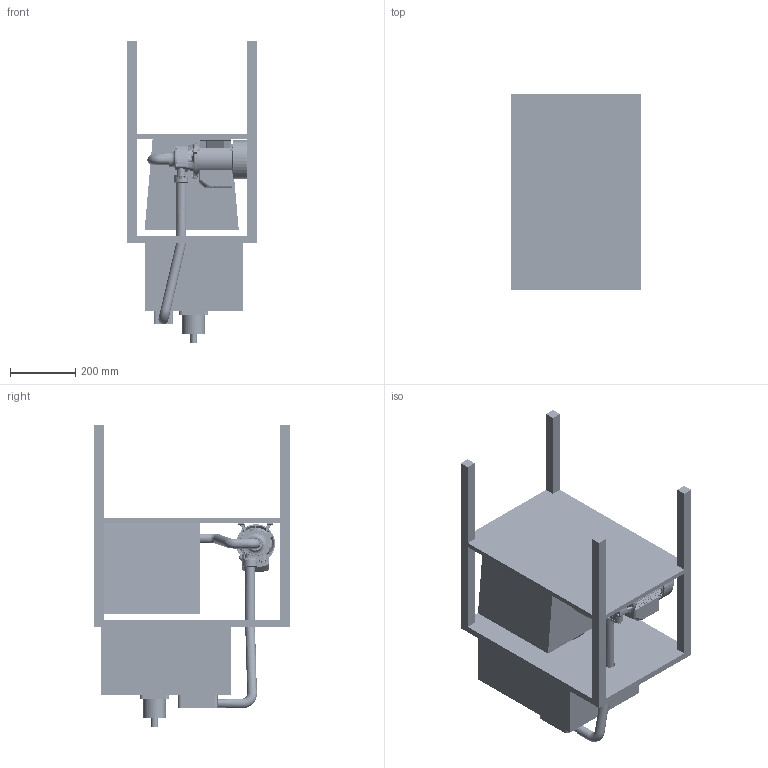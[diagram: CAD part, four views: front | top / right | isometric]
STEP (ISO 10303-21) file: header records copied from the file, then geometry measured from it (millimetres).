
FILE_DESCRIPTION(/* description */ (''),/* implementation_level */ '2;1');
FILE_NAME(/* name */ 'Assieme_banco_turbine_idrauliche.stp',/* time_stamp */ '2025-03-15T13:00:15+01:00',/* author */ ('R5800u'),/* organization */ (''),/* preprocessor_version */ 'ST-DEVELOPER v20',/* originating_system */ 'Autodesk Inventor 2025',/* authorisation */ '');
FILE_SCHEMA (('AUTOMOTIVE_DESIGN { 1 0 10303 214 3 1 1 }'));
Products named in the file (69): Assieme3; Assieme_turgo_frame; Assieme2; SOLID; tslot-20x20-3; tslot-20x20-2; tslot-20x20-3_MIR1; SNSD20x20; SNSD20x20_MIR; tslot-20x20-2_MIR1; tappo_superiore_distributore; lastra_top; lastra_laterale1; lastra_laterale2; Assieme_turgo; Parte2; disco; pala_turgo_small; disco_MIR1; AS 1474 - M3; albero-20mm; SKF51104; albero_2; %3% BS 290 - SKF 61804; blocco_albero; BS EN ISO 4762 - M4 x 35; tavolo; PERIPHERAL WATER PUMP; CASING WITH WOUND STATOR; TERMINAL COVER; BOLT(4); FAN COVER; FAIRLEAD; PUMP CASING; CHARGE PLUG; CAPACITOR; SHAFT; FAN; ROTOR; PUMP SUPPORT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
Assembly tree (177 placements, depth 4):
  Assieme3
    Assieme_turgo_frame
      Assieme2
        SOLID  x4
        tslot-20x20-3  x2
        tslot-20x20-2  x2
        tslot-20x20-3_MIR1  x2
        SNSD20x20  x8
        SNSD20x20_MIR  x8
        tslot-20x20-2_MIR1  x2
      tappo_superiore_distributore
      lastra_top
      lastra_laterale1  x2
      lastra_laterale2  x2
    Assieme_turgo
      Parte2
      disco
      pala_turgo_small  x19
      disco_MIR1
      AS 1474 - M3  x2
      albero-20mm
    SKF51104
    albero_2
    %3% BS 290 - SKF 61804
    blocco_albero
    BS EN ISO 4762 - M4 x 35  x2
    tavolo
    PERIPHERAL WATER PUMP
      CASING WITH WOUND STATOR
      TERMINAL COVER
      BOLT(4)  x2
      FAN COVER
      FAIRLEAD
      PUMP CASING
      CHARGE PLUG
      CAPACITOR
      SHAFT
      FAN
      ROTOR
      PUMP SUPPORT
      IMPELLER
      DRIVING CAP
      O RING (2)
      BOLT(3)  x3
      BOLT(2)  x6
      EMPAQUE UNION
      DROPS GUARD
        EMPAQUE2-3
        EMPAQUE2-2
      MECHANICAL SEAL
        PARTE 2 EMPAQUE
        PARTE 1 EMPAQUE
        PARTE 3 EMPAQUE
        PARTE 4 EMPAQUE
        WASHER
      SNAP RING
      BEARING  x2
      COIL
        PLACA ENBOBINADO  x56
        Pieza3^COIL
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Bounding box: 400 x 600 x 927.6 mm (x, y, z)
Volume: 15750213.6 mm3; surface area: 5011801.3 mm2
Topology: 1673 solids, 1673 shells, 19861 faces, 48460 edges, 31932 vertices
Faces by surface type: cylinder 9989, plane 8717, bspline 628, torus 289, cone 159, sphere 79
Full cylindrical faces by diameter (mm): 0.596 x1440, 1.3 x75, 1.8 x1, 2 x2, 2.459 x2, 2.65 x2, 2.7 x1, 2.8 x11, 3.2 x76, 3.44 x38, 3.9 x3, 4 x4, 4.2 x12, 4.3 x16, 4.35 x2, 4.6 x2, 5 x23, 5.2 x2, 5.3 x4, 5.5 x8, 5.7 x4, 6.3 x1, 6.5 x3, 6.57 x5, 7 x5, 7.6 x1, 7.8 x1, 8.376 x5, 8.4 x4, 9 x4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
Entity records: 277313 total; most frequent: CARTESIAN_POINT 103912, DIRECTION 37432, ORIENTED_EDGE 30442, EDGE_CURVE 15221, AXIS2_PLACEMENT_3D 15191, VERTEX_POINT 9996, EDGE_LOOP 9287, ADVANCED_FACE 8453
